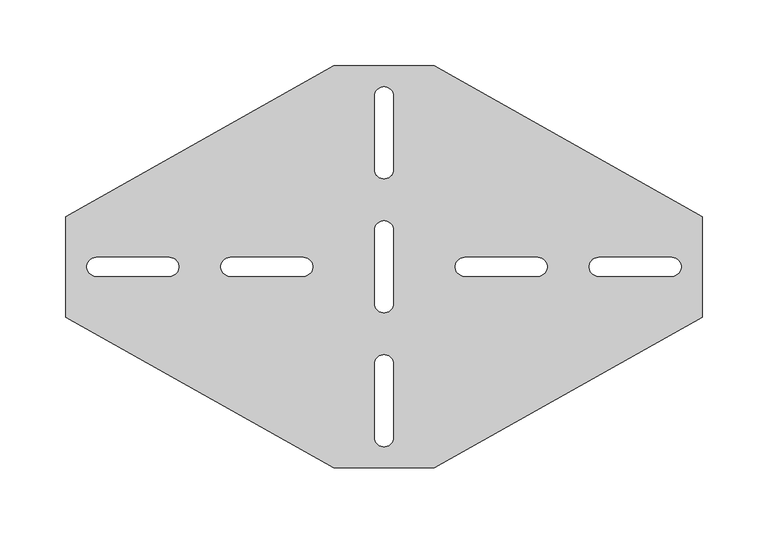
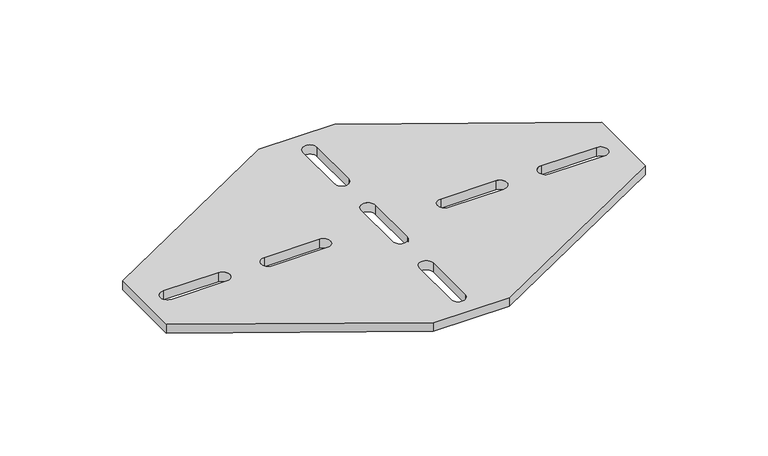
"""IFC4 building model written with IfcOpenShell, lengths in millimetres: proxy geometry, 14NSF-P53 : 14NSF-P53."""

from ifc_helpers import new_model, si_unit, point, frame_2d, origin, origin_with_axes, place, context, project, spatial, polyline, circle_curve, trimmed, segment, composite_curve, outline, extrude, source, transform, mapped, element, save


def generic_models_20bb5660(model_context):
    return source(origin(), model_context, "Body", "SweptSolid", [
        extrude(outline(polyline([(38.1, 152.4), (241.3, 38.1), (241.3, -38.1), (38.1, -152.4), (-38.1, -152.4), (-241.3, -38.1), (-241.3, 38.1), (-38.1, 152.4), (38.1, 152.4)]), holes=[composite_curve([segment(polyline([(-7.14375, 129.38125), (-7.14375, 73.81875)]), True, "CONTINUOUS"), segment(trimmed(circle_curve(frame_2d((0.0, 73.81875)), 7.14375), [point((-7.14375, 73.81875))], [point((7.14375, 73.81875))], True, "CARTESIAN"), True, "CONTINUOUS"), segment(polyline([(7.14375, 73.81875), (7.14375, 129.38125)]), True, "CONTINUOUS"), segment(trimmed(circle_curve(frame_2d((0.0, 129.38125)), 7.14375), [point((7.14375, 129.38125))], [point((-7.14375, 129.38125))], True, "CARTESIAN"), True, "CONTINUOUS")], self_intersect=False), composite_curve([segment(polyline([(-7.14375, 27.78125), (-7.14375, -27.78125)]), True, "CONTINUOUS"), segment(trimmed(circle_curve(frame_2d((0.0, -27.78125)), 7.14375), [point((-7.14375, -27.78125))], [point((7.14375, -27.78125))], True, "CARTESIAN"), True, "CONTINUOUS"), segment(polyline([(7.14375, -27.78125), (7.14375, 27.78125)]), True, "CONTINUOUS"), segment(trimmed(circle_curve(frame_2d((0.0, 27.78125)), 7.14375), [point((7.14375, 27.78125))], [point((-7.14375, 27.78125))], True, "CARTESIAN"), True, "CONTINUOUS")], self_intersect=False), composite_curve([segment(polyline([(-7.14375, -73.81875), (-7.14375, -129.38125)]), True, "CONTINUOUS"), segment(trimmed(circle_curve(frame_2d((0.0, -129.38125)), 7.14375), [point((-7.14375, -129.38125))], [point((7.14375, -129.38125))], True, "CARTESIAN"), True, "CONTINUOUS"), segment(polyline([(7.14375, -129.38125), (7.14375, -73.81875)]), True, "CONTINUOUS"), segment(trimmed(circle_curve(frame_2d((0.0, -73.81875)), 7.14375), [point((7.14375, -73.81875))], [point((-7.14375, -73.81875))], True, "CARTESIAN"), True, "CONTINUOUS")], self_intersect=False), composite_curve([segment(polyline([(-218.28125, -7.14375), (-162.71875, -7.14375)]), True, "CONTINUOUS"), segment(trimmed(circle_curve(frame_2d((-162.71875, 0.0)), 7.14375), [point((-162.71875, -7.14375))], [point((-162.71875, 7.14375))], True, "CARTESIAN"), True, "CONTINUOUS"), segment(polyline([(-162.71875, 7.14375), (-218.28125, 7.14375)]), True, "CONTINUOUS"), segment(trimmed(circle_curve(frame_2d((-218.28125, 0.0)), 7.14375), [point((-218.28125, 7.14375))], [point((-218.28125, -7.14375))], True, "CARTESIAN"), True, "CONTINUOUS")], self_intersect=False), composite_curve([segment(polyline([(-116.68125, -7.14375), (-61.11875, -7.14375)]), True, "CONTINUOUS"), segment(trimmed(circle_curve(frame_2d((-61.11875, 0.0)), 7.14375), [point((-61.11875, -7.14375))], [point((-61.11875, 7.14375))], True, "CARTESIAN"), True, "CONTINUOUS"), segment(polyline([(-61.11875, 7.14375), (-116.68125, 7.14375)]), True, "CONTINUOUS"), segment(trimmed(circle_curve(frame_2d((-116.68125, 0.0)), 7.14375), [point((-116.68125, 7.14375))], [point((-116.68125, -7.14375))], True, "CARTESIAN"), True, "CONTINUOUS")], self_intersect=False), composite_curve([segment(polyline([(61.11875, -7.14375), (116.68125, -7.14375)]), True, "CONTINUOUS"), segment(trimmed(circle_curve(frame_2d((116.68125, 0.0)), 7.14375), [point((116.68125, -7.14375))], [point((116.68125, 7.14375))], True, "CARTESIAN"), True, "CONTINUOUS"), segment(polyline([(116.68125, 7.14375), (61.11875, 7.14375)]), True, "CONTINUOUS"), segment(trimmed(circle_curve(frame_2d((61.11875, 0.0)), 7.14375), [point((61.11875, 7.14375))], [point((61.11875, -7.14375))], True, "CARTESIAN"), True, "CONTINUOUS")], self_intersect=False), composite_curve([segment(polyline([(162.71875, -7.14375), (218.28125, -7.14375)]), True, "CONTINUOUS"), segment(trimmed(circle_curve(frame_2d((218.28125, 0.0)), 7.14375), [point((218.28125, -7.14375))], [point((218.28125, 7.14375))], True, "CARTESIAN"), True, "CONTINUOUS"), segment(polyline([(218.28125, 7.14375), (162.71875, 7.14375)]), True, "CONTINUOUS"), segment(trimmed(circle_curve(frame_2d((162.71875, 0.0)), 7.14375), [point((162.71875, 7.14375))], [point((162.71875, -7.14375))], True, "CARTESIAN"), True, "CONTINUOUS")], self_intersect=False)]), origin_with_axes(), (0.0, 0.0, 1.0), 9.525),
    ])


if __name__ == "__main__":
    model = new_model("IFC4")
    model_context = context("Model", 3, world=origin())
    ifc_project = project(units=[si_unit("LENGTHUNIT", "METRE", prefix="MILLI")], contexts=[model_context])
    site = spatial("IfcSite", under=ifc_project)
    building = spatial("IfcBuilding", under=site)
    placement = place(None, origin())
    generic_models_shape = generic_models_20bb5660(model_context)
    element("IfcBuildingElementProxy", 1, Name="14NSF-P53 : 14NSF-P53", ObjectType="14NSF-P53 : 14NSF-P53", at=placement, inside=building, context=model_context, shape_type="MappedRepresentation", body=[
        mapped(generic_models_shape, transform((0.0, 0.0, 0.0), x_axis=(1.0, 0.0, 0.0), y_axis=(0.0, 1.0, 0.0), z_axis=(0.0, 0.0, 1.0))),
    ])
    save(model, "model.ifc")
